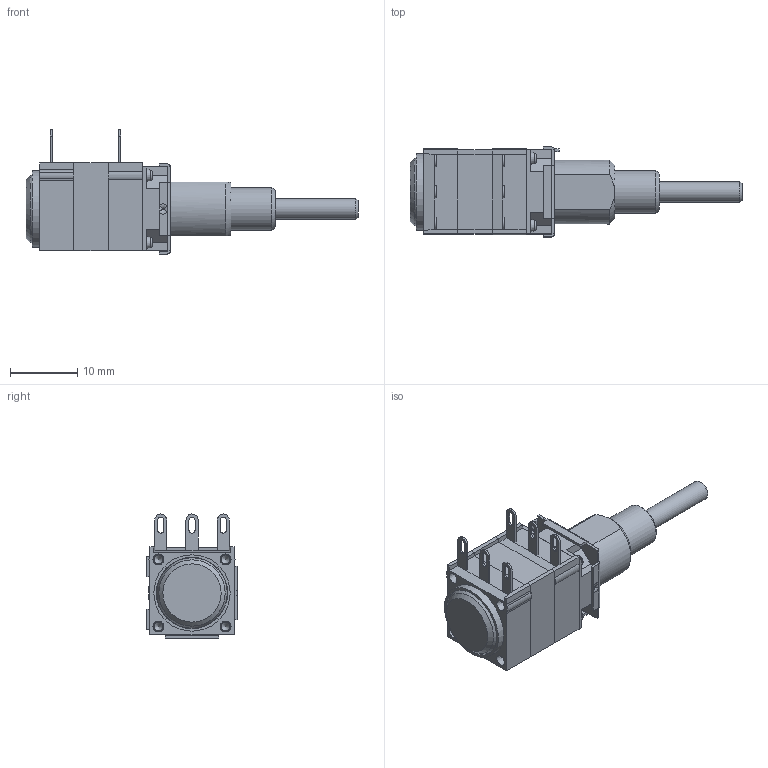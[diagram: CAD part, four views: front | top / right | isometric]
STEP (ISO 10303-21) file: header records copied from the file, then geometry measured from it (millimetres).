
FILE_DESCRIPTION(/* description */ ('Unknown'),/* implementation_level */ '2;1');
FILE_NAME(/* name */ 'P11S3FACCRY00103MA',/* time_stamp */ '2017-11-30T17:57:36+01:00',/* author */ ('Unknown'),/* organization */ ('Unknown'),/* preprocessor_version */ 'ST-DEVELOPER v16.7',/* originating_system */ 'DEX',/* authorisation */ $);
FILE_SCHEMA (('CONFIG_CONTROL_DESIGN'));
Length unit declared in the file: millimetre
Products named in the file (17): P11S3FACCRY00103MA; 3657740; 3653060; M1-Y00-103; 3650993; bande à chas; 3650540; MECA SPACER; 3657530; M3-Y00-103; 3657350; 3657910; ergot_A_9H; 0150008-P11; 0150001-P11; 0121014-P11
Assembly tree (20 placements, depth 3):
  P11S3FACCRY00103MA
    3657740
    3653060
    M1-Y00-103
      3650993
      bande à chas
    3650540
    MECA SPACER
      3657530
    M3-Y00-103
      3650993
      bande à chas
    3657350
    3657910
    ergot_A_9H
    0150008-P11
    0150001-P11  x3
    0121014-P11  x2
Bounding box: 49.39 x 13.4 x 18.45 mm (x, y, z)
Volume: 2769.2 mm3; surface area: 5469 mm2
Topology: 15 solids, 15 shells, 744 faces, 1907 edges, 1245 vertices
Faces by surface type: plane 415, cylinder 207, cone 88, bspline 20, torus 14
Full cylindrical faces by diameter (mm): 0.9 x1, 0.996 x8, 1.3 x20, 1.5 x18, 1.55 x4, 1.8 x2, 1.9 x1, 2 x1, 2.8 x1, 3 x2, 3.6 x1, 3.7 x1, 3.97 x1, 4 x1, 4.1 x2, 5.25 x2, 5.9 x1, 6.35 x2, 6.4 x2, 7.42 x1, 7.44 x2, 8.4 x1, 9.65 x1, 10.2 x1, 10.6 x2, 11.35 x2
Entity records: 20157 total; most frequent: CARTESIAN_POINT 3752, DIRECTION 3300, ORIENTED_EDGE 2972, EDGE_CURVE 1486, AXIS2_PLACEMENT_3D 1229, VERTEX_POINT 1047, EDGE_LOOP 937, FACE_BOUND 937
